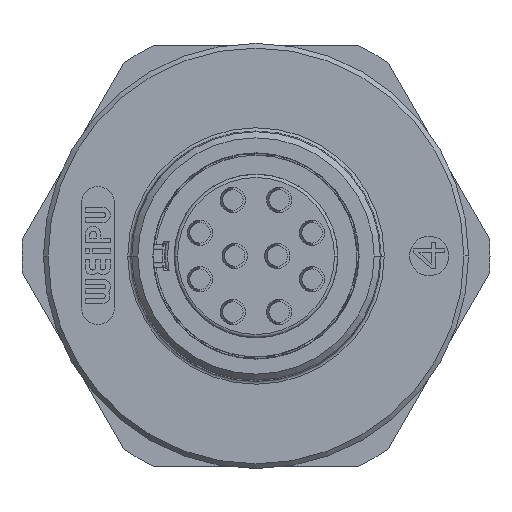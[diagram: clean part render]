
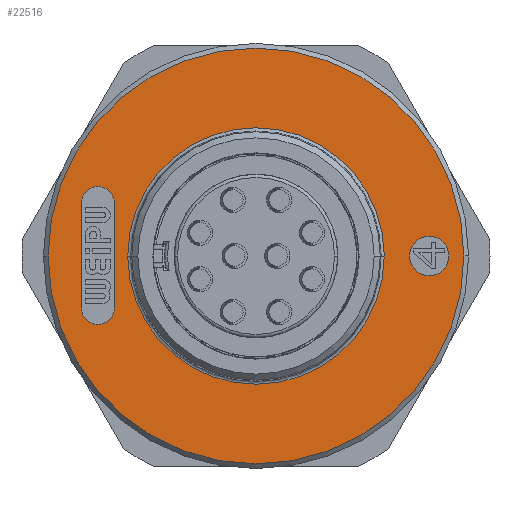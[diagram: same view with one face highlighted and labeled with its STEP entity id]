
A CAD part, left-side view. The second image highlights one B-rep face of the part: STEP entity #22516.
In plain terms, the highlighted planar face has unit normal (-1, 0, 0).
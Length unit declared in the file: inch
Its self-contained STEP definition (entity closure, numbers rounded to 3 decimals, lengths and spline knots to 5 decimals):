
#7616=CARTESIAN_POINT('',(-0.09843,0.,0.));
#7617=DIRECTION('',(1.,0.,0.));
#7618=DIRECTION('',(0.,-1.,0.));
#7619=AXIS2_PLACEMENT_3D('',#7616,#7617,#7618);
#7621=CARTESIAN_POINT('',(-0.09843,0.,0.));
#7622=DIRECTION('',(1.,0.,0.));
#7623=DIRECTION('',(0.,0.,-1.));
#7624=AXIS2_PLACEMENT_3D('',#7621,#7622,#7623);
#7626=CARTESIAN_POINT('',(-0.09843,0.,0.));
#7627=DIRECTION('',(1.,0.,0.));
#7628=DIRECTION('',(0.,1.,0.));
#7629=AXIS2_PLACEMENT_3D('',#7626,#7627,#7628);
#7631=CARTESIAN_POINT('',(-0.09843,0.,0.));
#7632=DIRECTION('',(1.,0.,0.));
#7633=DIRECTION('',(0.,0.,1.));
#7634=AXIS2_PLACEMENT_3D('',#7631,#7632,#7633);
#7636=CARTESIAN_POINT('',(-0.09843,0.,0.));
#7637=DIRECTION('',(-1.,0.,0.));
#7638=DIRECTION('',(0.,-1.,0.009));
#7639=AXIS2_PLACEMENT_3D('',#7636,#7637,#7638);
#7641=CARTESIAN_POINT('',(-0.09843,0.,0.));
#7642=DIRECTION('',(-1.,0.,0.));
#7643=DIRECTION('',(0.,1.,-0.009));
#7644=AXIS2_PLACEMENT_3D('',#7641,#7642,#7643);
#7646=CARTESIAN_POINT('',(-0.09843,0.39547,
-0.12992));
#7647=DIRECTION('',(-1.,0.,0.));
#7648=DIRECTION('',(0.,1.,0.));
#7649=AXIS2_PLACEMENT_3D('',#7646,#7647,#7648);
#7651=CARTESIAN_POINT('',(-0.09843,0.39547,
-0.12992));
#7652=DIRECTION('',(-1.,0.,0.));
#7653=DIRECTION('',(0.,0.,-1.));
#7654=AXIS2_PLACEMENT_3D('',#7651,#7652,#7653);
#7656=CARTESIAN_POINT('',(-0.09843,0.39547,
0.13268));
#7657=DIRECTION('',(-1.,0.,0.));
#7658=DIRECTION('',(0.,-1.,0.));
#7659=AXIS2_PLACEMENT_3D('',#7656,#7657,#7658);
#7661=CARTESIAN_POINT('',(-0.09843,0.39547,
0.13268));
#7662=DIRECTION('',(-1.,0.,0.));
#7663=DIRECTION('',(0.,0.,1.));
#7664=AXIS2_PLACEMENT_3D('',#7661,#7662,#7663);
#7666=CARTESIAN_POINT('',(-0.09843,-0.43307,0.));
#7667=DIRECTION('',(-1.,0.,0.));
#7668=DIRECTION('',(0.,0.,1.));
#7669=AXIS2_PLACEMENT_3D('',#7666,#7667,#7668);
#7671=CARTESIAN_POINT('',(-0.09843,-0.43307,0.));
#7672=DIRECTION('',(-1.,0.,0.));
#7673=DIRECTION('',(0.,0.,-1.));
#7674=AXIS2_PLACEMENT_3D('',#7671,#7672,#7673);
#7694=CARTESIAN_POINT('',(-0.09843,0.,0.));
#7695=DIRECTION('',(1.,0.,0.));
#7696=DIRECTION('',(0.,-1.,0.009));
#7697=AXIS2_PLACEMENT_3D('',#7694,#7695,#7696);
#7732=CARTESIAN_POINT('',(-0.09843,0.,0.));
#7733=DIRECTION('',(1.,0.,0.));
#7734=DIRECTION('',(0.,1.,-0.009));
#7735=AXIS2_PLACEMENT_3D('',#7732,#7733,#7734);
#10239=DIRECTION('',(0.,0.,1.));
#10240=VECTOR('',#10239,0.2626);
#10241=CARTESIAN_POINT('',(-0.09843,0.43661,
-0.12992));
#10242=LINE('',#10241,#10240);
#10251=DIRECTION('',(0.,0.,-1.));
#10252=VECTOR('',#10251,0.2626);
#10253=CARTESIAN_POINT('',(-0.09843,0.35433,
0.13268));
#10254=LINE('',#10253,#10252);
#12635=CARTESIAN_POINT('',(-0.09843,-0.51969,0.));
#12636=CARTESIAN_POINT('',(-0.09843,0.,-0.51969));
#12637=VERTEX_POINT('',#12635);
#12638=VERTEX_POINT('',#12636);
#12639=CARTESIAN_POINT('',(-0.09843,0.51969,0.));
#12640=VERTEX_POINT('',#12639);
#12641=CARTESIAN_POINT('',(-0.09843,0.,0.51969));
#12642=VERTEX_POINT('',#12641);
#12643=CARTESIAN_POINT('',(-0.09843,-0.3206,
0.00285));
#12644=CARTESIAN_POINT('',(-0.09843,-0.32062,
0.));
#12645=VERTEX_POINT('',#12643);
#12646=VERTEX_POINT('',#12644);
#12647=CARTESIAN_POINT('',(-0.09843,0.32062,
0.));
#12648=VERTEX_POINT('',#12647);
#12649=CARTESIAN_POINT('',(-0.09843,0.3206,
-0.00285));
#12650=VERTEX_POINT('',#12649);
#12651=CARTESIAN_POINT('',(-0.09843,0.43661,
-0.12992));
#12652=CARTESIAN_POINT('',(-0.09843,0.39547,
-0.17106));
#12653=VERTEX_POINT('',#12651);
#12654=VERTEX_POINT('',#12652);
#12655=CARTESIAN_POINT('',(-0.09843,0.35433,
-0.12992));
#12656=VERTEX_POINT('',#12655);
#12657=CARTESIAN_POINT('',(-0.09843,0.35433,
0.13268));
#12658=CARTESIAN_POINT('',(-0.09843,0.39547,
0.17382));
#12659=VERTEX_POINT('',#12657);
#12660=VERTEX_POINT('',#12658);
#12661=CARTESIAN_POINT('',(-0.09843,0.43661,
0.13268));
#12662=VERTEX_POINT('',#12661);
#12663=CARTESIAN_POINT('',(-0.09843,-0.43307,
0.04921));
#12664=CARTESIAN_POINT('',(-0.09843,-0.43307,
-0.04921));
#12665=VERTEX_POINT('',#12663);
#12666=VERTEX_POINT('',#12664);
#22473=CARTESIAN_POINT('',(-0.09843,0.,0.));
#22474=DIRECTION('',(1.,0.,0.));
#22475=DIRECTION('',(0.,-1.,0.));
#22476=AXIS2_PLACEMENT_3D('',#22473,#22474,#22475);
#22477=PLANE('',#22476);
#22478=ORIENTED_EDGE('',*,*,#22462,.T.);
#22479=ORIENTED_EDGE('',*,*,#22460,.T.);
#22481=ORIENTED_EDGE('',*,*,#22480,.T.);
#22483=ORIENTED_EDGE('',*,*,#22482,.T.);
#22484=EDGE_LOOP('',(#22478,#22479,#22481,#22483));
#22485=FACE_OUTER_BOUND('',#22484,.F.);
#22487=ORIENTED_EDGE('',*,*,#22486,.F.);
#22489=ORIENTED_EDGE('',*,*,#22488,.T.);
#22491=ORIENTED_EDGE('',*,*,#22490,.F.);
#22493=ORIENTED_EDGE('',*,*,#22492,.T.);
#22494=EDGE_LOOP('',(#22487,#22489,#22491,#22493));
#22495=FACE_BOUND('',#22494,.F.);
#22497=ORIENTED_EDGE('',*,*,#22496,.T.);
#22499=ORIENTED_EDGE('',*,*,#22498,.T.);
#22501=ORIENTED_EDGE('',*,*,#22500,.F.);
#22503=ORIENTED_EDGE('',*,*,#22502,.T.);
#22505=ORIENTED_EDGE('',*,*,#22504,.T.);
#22507=ORIENTED_EDGE('',*,*,#22506,.F.);
#22508=EDGE_LOOP('',(#22497,#22499,#22501,#22503,#22505,#22507));
#22509=FACE_BOUND('',#22508,.F.);
#22511=ORIENTED_EDGE('',*,*,#22510,.T.);
#22513=ORIENTED_EDGE('',*,*,#22512,.T.);
#22514=EDGE_LOOP('',(#22511,#22513));
#22515=FACE_BOUND('',#22514,.F.);
#22516=ADVANCED_FACE('',(#22485,#22495,#22509,#22515),#22477,.F.);
#7620=CIRCLE('',#7619,0.51969);
#7625=CIRCLE('',#7624,0.51969);
#7630=CIRCLE('',#7629,0.51969);
#7635=CIRCLE('',#7634,0.51969);
#7640=CIRCLE('',#7639,0.32062);
#7645=CIRCLE('',#7644,0.32062);
#7650=CIRCLE('',#7649,0.04114);
#7655=CIRCLE('',#7654,0.04114);
#7660=CIRCLE('',#7659,0.04114);
#7665=CIRCLE('',#7664,0.04114);
#7670=CIRCLE('',#7669,0.04921);
#7675=CIRCLE('',#7674,0.04921);
#7698=CIRCLE('',#7697,0.32062);
#7736=CIRCLE('',#7735,0.32062);
#22460=EDGE_CURVE('',#12638,#12640,#7625,.T.);
#22462=EDGE_CURVE('',#12637,#12638,#7620,.T.);
#22480=EDGE_CURVE('',#12640,#12642,#7630,.T.);
#22482=EDGE_CURVE('',#12642,#12637,#7635,.T.);
#22486=EDGE_CURVE('',#12645,#12646,#7698,.T.);
#22488=EDGE_CURVE('',#12645,#12648,#7640,.T.);
#22490=EDGE_CURVE('',#12650,#12648,#7736,.T.);
#22492=EDGE_CURVE('',#12650,#12646,#7645,.T.);
#22496=EDGE_CURVE('',#12653,#12654,#7650,.T.);
#22498=EDGE_CURVE('',#12654,#12656,#7655,.T.);
#22500=EDGE_CURVE('',#12659,#12656,#10254,.T.);
#22502=EDGE_CURVE('',#12659,#12660,#7660,.T.);
#22504=EDGE_CURVE('',#12660,#12662,#7665,.T.);
#22506=EDGE_CURVE('',#12653,#12662,#10242,.T.);
#22510=EDGE_CURVE('',#12665,#12666,#7670,.T.);
#22512=EDGE_CURVE('',#12666,#12665,#7675,.T.);
